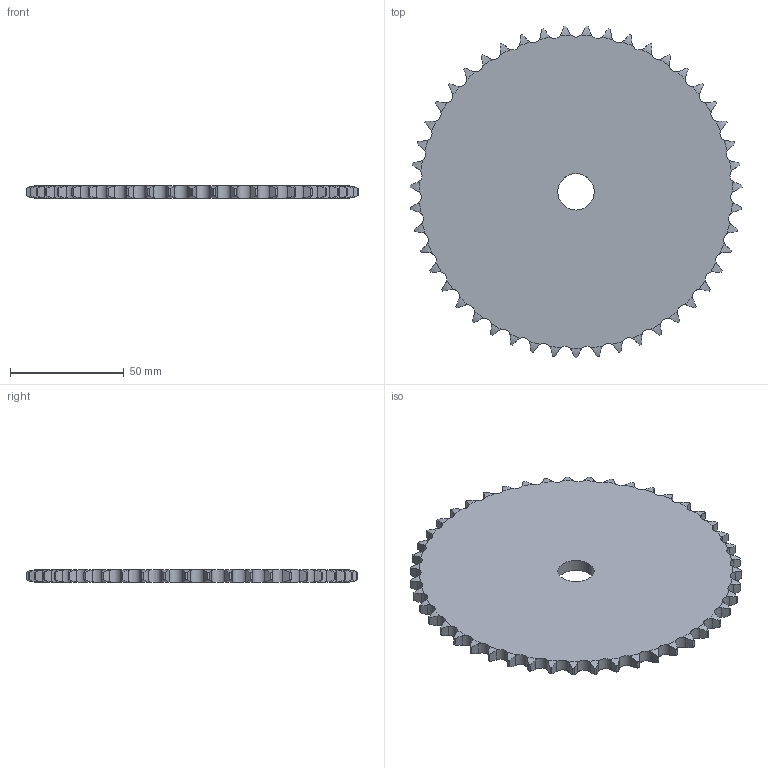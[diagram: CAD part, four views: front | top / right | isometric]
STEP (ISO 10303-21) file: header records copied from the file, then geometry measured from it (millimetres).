
FILE_DESCRIPTION((''),'2;1');
FILE_NAME('500-101-0047_PRT','2021-02-12T',('Brieden'),('Brieden'),'PRO/ENGINEER BY PARAMETRIC TECHNOLOGY CORPORATION, 2010160','PRO/ENGINEER BY PARAMETRIC TECHNOLOGY CORPORATION, 2010160','');
FILE_SCHEMA(('AUTOMOTIVE_DESIGN { 1 0 10303 214 1 1 1 1 }'));
Length unit declared in the file: millimetre
Products named in the file (1): 500-101-0047_PRT
Bounding box: 146.05 x 145.97 x 5.3 mm (x, y, z)
Volume: 80043.2 mm3; surface area: 33926.5 mm2
Topology: 1 solids, 1 shells, 286 faces, 852 edges, 568 vertices
Faces by surface type: cylinder 190, torus 94, plane 2
Entity records: 14019 total; most frequent: CARTESIAN_POINT 4168, ORIENTED_EDGE 1704, DIRECTION 1334, PRESENTATION_STYLE_ASSIGNMENT 853, STYLED_ITEM 853, CURVE_STYLE 852, EDGE_CURVE 852, AXIS2_PLACEMENT_3D 572
